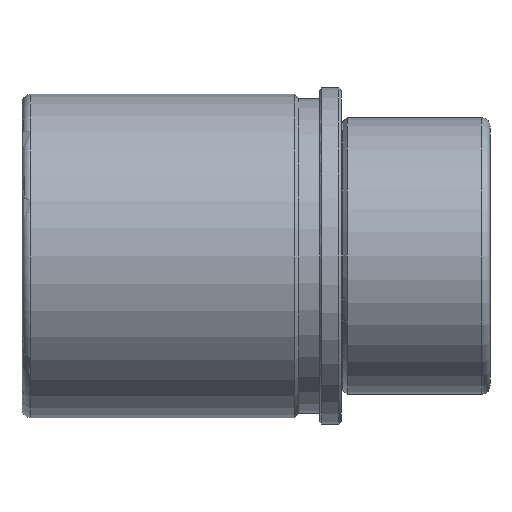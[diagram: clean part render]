
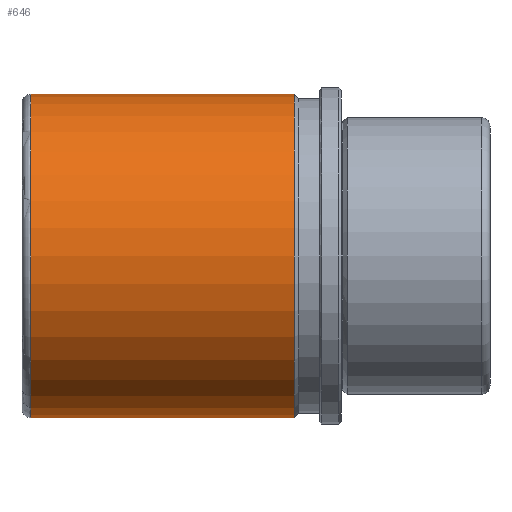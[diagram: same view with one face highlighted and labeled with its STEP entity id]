
A CAD part, front view. The second image highlights one B-rep face of the part: STEP entity #646.
In plain terms, the highlighted cylindrical face has radius 38 mm (diameter 76 mm), a partial arc.
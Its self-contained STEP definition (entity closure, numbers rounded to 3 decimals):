
#431=CARTESIAN_POINT('Line Origine',(35.,0.,38.)) ;
#435=CARTESIAN_POINT('Vertex',(-11.,0.,38.)) ;
#437=CARTESIAN_POINT('Vertex',(-73.,0.,38.)) ;
#451=CARTESIAN_POINT('Vertex',(-11.,0.,-38.)) ;
#454=CARTESIAN_POINT('Line Origine',(35.,0.,-38.)) ;
#458=CARTESIAN_POINT('Vertex',(-73.,0.,-38.)) ;
#609=CARTESIAN_POINT('Axis2P3D Location',(35.,0.,0.)) ;
#614=CARTESIAN_POINT('Axis2P3D Location',(-11.,0.,0.)) ;
#618=CARTESIAN_POINT('Vertex',(-11.,-38.,0.)) ;
#621=CARTESIAN_POINT('Axis2P3D Location',(-11.,0.,0.)) ;
#626=CARTESIAN_POINT('Axis2P3D Location',(-73.,0.,0.)) ;
#630=CARTESIAN_POINT('Vertex',(-73.,-38.,0.)) ;
#633=CARTESIAN_POINT('Axis2P3D Location',(-73.,0.,0.)) ;
#432=DIRECTION('Vector Direction',(-1.,0.,0.)) ;
#455=DIRECTION('Vector Direction',(-1.,0.,0.)) ;
#610=DIRECTION('Axis2P3D Direction',(-1.,-0.,-0.)) ;
#611=DIRECTION('Axis2P3D XDirection',(0.,0.,-1.)) ;
#615=DIRECTION('Axis2P3D Direction',(-1.,-0.,-0.)) ;
#622=DIRECTION('Axis2P3D Direction',(-1.,-0.,-0.)) ;
#627=DIRECTION('Axis2P3D Direction',(-1.,-0.,-0.)) ;
#634=DIRECTION('Axis2P3D Direction',(-1.,-0.,-0.)) ;
#612=AXIS2_PLACEMENT_3D('Cylinder Axis2P3D',#609,#610,#611) ;
#616=AXIS2_PLACEMENT_3D('Circle Axis2P3D',#614,#615,$) ;
#623=AXIS2_PLACEMENT_3D('Circle Axis2P3D',#621,#622,$) ;
#628=AXIS2_PLACEMENT_3D('Circle Axis2P3D',#626,#627,$) ;
#635=AXIS2_PLACEMENT_3D('Circle Axis2P3D',#633,#634,$) ;
#639=ORIENTED_EDGE('',*,*,#460,.T.) ;
#640=ORIENTED_EDGE('',*,*,#620,.F.) ;
#641=ORIENTED_EDGE('',*,*,#625,.F.) ;
#642=ORIENTED_EDGE('',*,*,#439,.T.) ;
#643=ORIENTED_EDGE('',*,*,#632,.T.) ;
#644=ORIENTED_EDGE('',*,*,#637,.T.) ;
#433=VECTOR('Line Direction',#432,1.) ;
#456=VECTOR('Line Direction',#455,1.) ;
#646=ADVANCED_FACE('FAMO-SF1-E52 x 110',(#645),#613,.T.) ;
#617=CIRCLE('generated circle',#616,38.) ;
#624=CIRCLE('generated circle',#623,38.) ;
#629=CIRCLE('generated circle',#628,38.) ;
#636=CIRCLE('generated circle',#635,38.) ;
#613=CYLINDRICAL_SURFACE('generated cylinder',#612,38.) ;
#439=EDGE_CURVE('',#436,#438,#434,.T.) ;
#460=EDGE_CURVE('',#459,#452,#457,.F.) ;
#620=EDGE_CURVE('',#619,#452,#617,.F.) ;
#625=EDGE_CURVE('',#436,#619,#624,.F.) ;
#632=EDGE_CURVE('',#438,#631,#629,.F.) ;
#637=EDGE_CURVE('',#631,#459,#636,.F.) ;
#638=EDGE_LOOP('',(#639,#640,#641,#642,#643,#644)) ;
#645=FACE_OUTER_BOUND('',#638,.T.) ;
#434=LINE('Line',#431,#433) ;
#457=LINE('Line',#454,#456) ;
#436=VERTEX_POINT('',#435) ;
#438=VERTEX_POINT('',#437) ;
#452=VERTEX_POINT('',#451) ;
#459=VERTEX_POINT('',#458) ;
#619=VERTEX_POINT('',#618) ;
#631=VERTEX_POINT('',#630) ;
